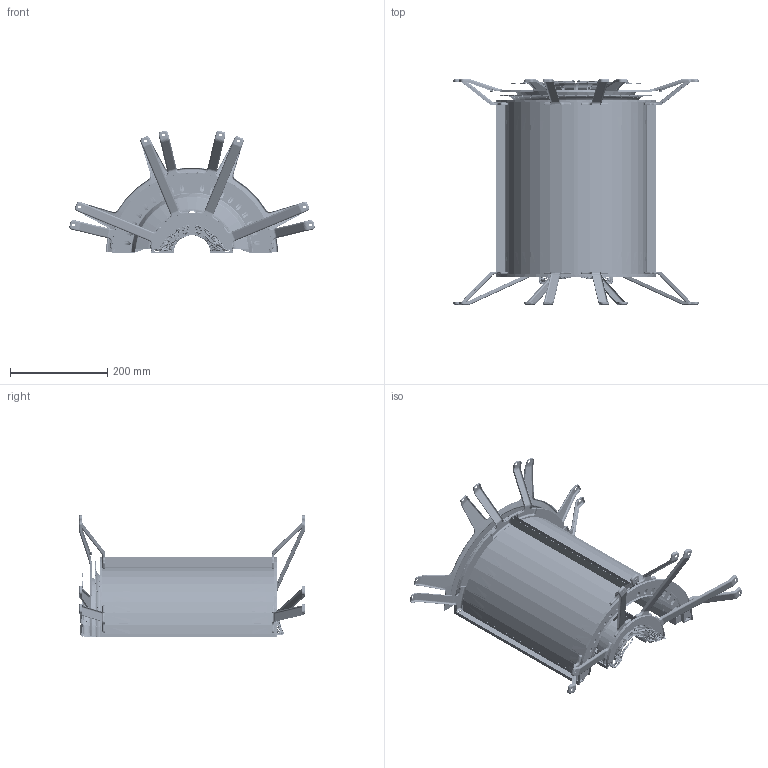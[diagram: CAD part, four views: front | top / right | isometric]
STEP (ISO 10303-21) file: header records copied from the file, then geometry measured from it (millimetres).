
FILE_DESCRIPTION(/* description */ (''),/* implementation_level */ '2;1');
FILE_NAME(/* name */ 'ePic_HalfAssembly.v2.stp',/* time_stamp */ '2025-05-14T08:11:58+02:00',/* author */ (''),/* organization */ (''),/* preprocessor_version */ 'ST-DEVELOPER v19.4',/* originating_system */ 'SIEMENS PLM Software NX2306.5001',/* authorisation */ '');
FILE_SCHEMA (('AP203_CONFIGURATION_CONTROLLED_3D_DESIGN_OF_MECHANICAL_PARTS_AND_ASSEMBLIES_MIM_LF { 1 0 10303 403 2 1 2}'));
Length unit declared in the file: millimetre
Products named in the file (1): ePic_HalfAssembly.v2_objects
Bounding box: 503.92 x 464 x 251.49 mm (x, y, z)
Volume: 1007054 mm3; surface area: 2294080.2 mm2
Topology: 500 solids, 500 shells, 6341 faces, 14619 edges, 9185 vertices
Faces by surface type: plane 2840, cylinder 1733, bspline 1199, torus 378, sphere 96, cone 87, extrusion 8
Full cylindrical faces by diameter (mm): 0.9 x56, 5.5 x16, 6 x5, 8 x5
Entity records: 289085 total; most frequent: CARTESIAN_POINT 150652, ORIENTED_EDGE 28388, DIRECTION 25886, EDGE_CURVE 14194, AXIS2_PLACEMENT_3D 9573, VERTEX_POINT 9058, EDGE_LOOP 6904, VECTOR 6740
